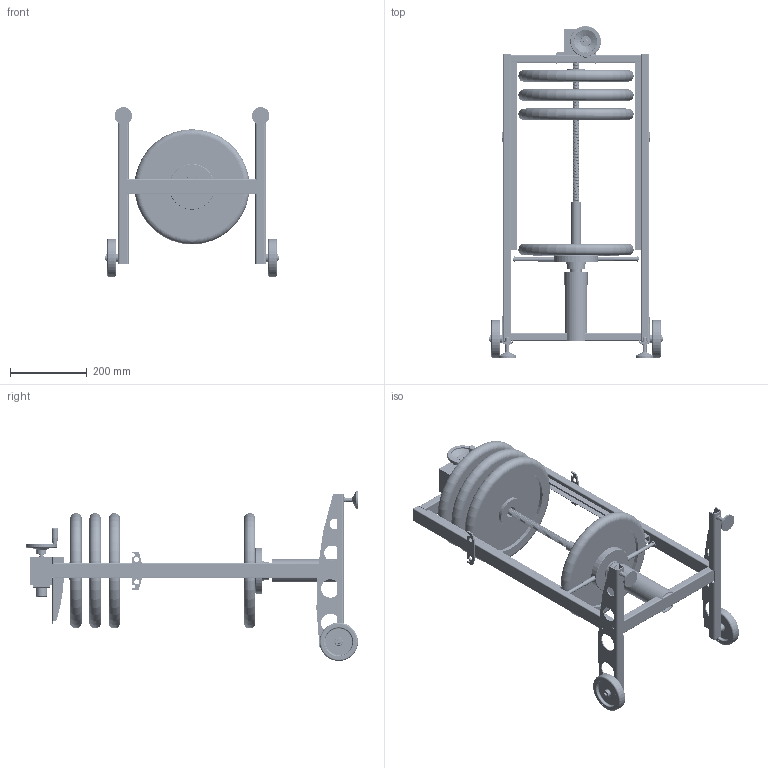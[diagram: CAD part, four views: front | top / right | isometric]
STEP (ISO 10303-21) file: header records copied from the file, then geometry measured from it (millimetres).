
FILE_DESCRIPTION((''),'2;1');
FILE_NAME('BANC_ASM','2007-01-29T',('Administrateur'),(''),'PRO/ENGINEER BY PARAMETRIC TECHNOLOGY CORPORATION, 2002180','PRO/ENGINEER BY PARAMETRIC TECHNOLOGY CORPORATION, 2002180','');
FILE_SCHEMA(('CONFIG_CONTROL_DESIGN'));
Length unit declared in the file: millimetre
Products named in the file (50): MONTANT; TRAVERSE; TRAVERSE_INF; TRAVERSE_SUP; PLAT; CADRE_ASM; PLAQUE_SUP; CORPS_MSZ5; ARBRE_ENTREE5; ANNEAUELASTIQUE32; ROULEMENT_6201; ROUE_DENTEE; BUTEE51106; COUVERCLE_BAS; COUVERCLE_HAUT; BAGUE; CLAVETTE_4X4X18; VIS5; CALE; ECROU_HM10; CLAVETTE_4X4X25; JOINT_SIMRIT12X32X5; CHAPEAU; VOLANT5; ECROU_FLASQUE; VERIN_MSZ5_ASM; MOYEU; AXE; ROULT_618; PLATEAU_ASM; MANCHON; GUIDE; RACCORD; TUBE_COULISSEAU; COULISSEAU_ASM; MASSE; COLONNE; LONGERON_D; LONGERON_G; ROUE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
Assembly tree (67 placements, depth 4):
  BANC_ASM
    CADRE_ASM
      MONTANT  x2
      TRAVERSE
      TRAVERSE_INF
      TRAVERSE_SUP
      PLAT
    PLAQUE_SUP
    VERIN_MSZ5_ASM
      CORPS_MSZ5
      ARBRE_ENTREE5
      ANNEAUELASTIQUE32  x2
      ROULEMENT_6201  x2
      ROUE_DENTEE
      BUTEE51106  x2
      COUVERCLE_BAS
      COUVERCLE_HAUT
      BAGUE
      CLAVETTE_4X4X18  x2
      VIS5
      CALE
      ECROU_HM10
      CLAVETTE_4X4X25
      JOINT_SIMRIT12X32X5  x2
      CHAPEAU
      VOLANT5
      ECROU_FLASQUE
    COULISSEAU_ASM
      ECROU_FLASQUE
      PLATEAU_ASM
        MOYEU
        AXE  x2
        ROULT_618  x2
      MANCHON
      GUIDE
      RACCORD
      TUBE_COULISSEAU
    MASSE  x4
    COLONNE
    LONGERON_D
    LONGERON_G
    ROUE_ASM  x2
      ROUE
      BANDAGE
      AXE_ROUE
    DOUILLE  x2
    SUPPORT  x2
    GLISSIERE  x2
    CONE_CENTRAGE
    SUPPORT_MASSE  x2
    BOUCHON  x2
Bounding box: 456 x 865 x 443 mm (x, y, z)
Volume: 7419484.2 mm3; surface area: 1977857.7 mm2
Topology: 93 solids, 133 shells, 2296 faces, 5649 edges, 3523 vertices
Faces by surface type: cylinder 1076, plane 476, bspline 232, cone 230, torus 178, sphere 104
Entity records: 185944 total; most frequent: CARTESIAN_POINT 143000, ORIENTED_EDGE 8878, DIRECTION 8224, EDGE_CURVE 4511, AXIS2_PLACEMENT_3D 3310, VERTEX_POINT 2876, EDGE_LOOP 2105, FACE_OUTER_BOUND 1833
